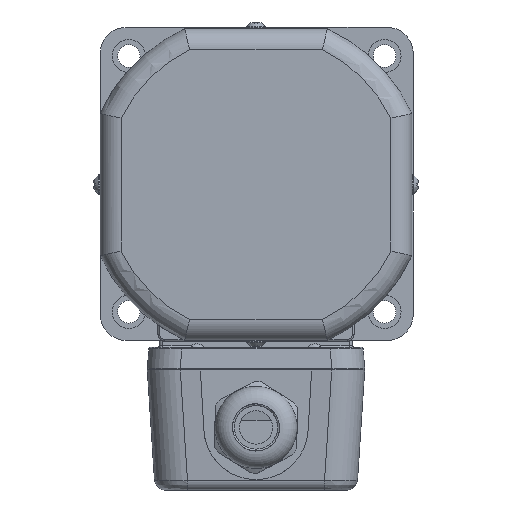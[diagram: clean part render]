
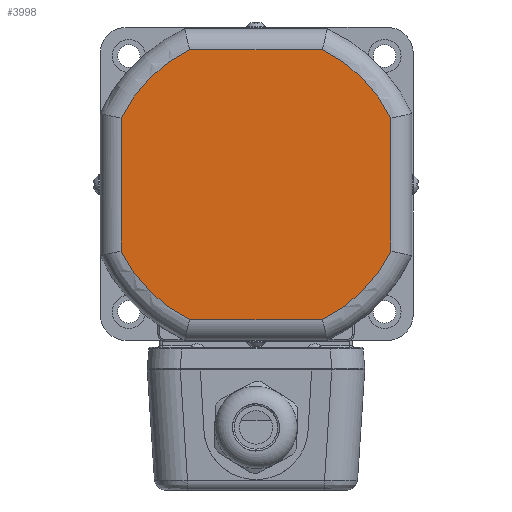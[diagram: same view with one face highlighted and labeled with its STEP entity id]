
A CAD part, left-side view. The second image highlights one B-rep face of the part: STEP entity #3998.
In plain terms, the highlighted planar face has unit normal (-1, 0, 0) as drawn and (0, 0, -1) by its records, which use the part's own axes.
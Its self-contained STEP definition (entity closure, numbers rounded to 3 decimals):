
#3331=CARTESIAN_POINT('',(38.8,-19.108,0.0));
#3332=VERTEX_POINT('',#3331);
#3359=CARTESIAN_POINT('',(19.108,-38.8,0.0));
#3360=VERTEX_POINT('',#3359);
#3378=CARTESIAN_POINT('',(0.0,0.0,0.0));
#3379=DIRECTION('',(0.0,0.0,1.0));
#3380=DIRECTION('',(0.707,-0.707,0.0));
#3381=AXIS2_PLACEMENT_3D('',#3378,#3379,#3380);
#3382=CIRCLE('',#3381,43.25);
#3383=EDGE_CURVE('',#3360,#3332,#3382,.T.);
#3395=CARTESIAN_POINT('',(-19.108,-38.8,0.0));
#3396=VERTEX_POINT('',#3395);
#3414=CARTESIAN_POINT('',(-19.108,-38.8,0.0));
#3415=DIRECTION('',(1.0,0.0,0.0));
#3416=VECTOR('',#3415,38.216);
#3417=LINE('',#3414,#3416);
#3418=EDGE_CURVE('',#3396,#3360,#3417,.T.);
#3437=CARTESIAN_POINT('',(38.8,19.108,0.0));
#3438=VERTEX_POINT('',#3437);
#3463=CARTESIAN_POINT('',(38.8,-19.108,0.0));
#3464=DIRECTION('',(0.0,1.0,0.0));
#3465=VECTOR('',#3464,38.216);
#3466=LINE('',#3463,#3465);
#3467=EDGE_CURVE('',#3332,#3438,#3466,.T.);
#3479=CARTESIAN_POINT('',(-38.8,-19.108,0.0));
#3480=VERTEX_POINT('',#3479);
#3498=CARTESIAN_POINT('',(0.0,0.0,0.0));
#3499=DIRECTION('',(0.0,0.0,1.0));
#3500=DIRECTION('',(-0.707,-0.707,0.0));
#3501=AXIS2_PLACEMENT_3D('',#3498,#3499,#3500);
#3502=CIRCLE('',#3501,43.25);
#3503=EDGE_CURVE('',#3480,#3396,#3502,.T.);
#3523=CARTESIAN_POINT('',(19.108,38.8,0.0));
#3524=VERTEX_POINT('',#3523);
#3550=CARTESIAN_POINT('',(0.0,0.0,0.0));
#3551=DIRECTION('',(0.0,0.0,1.0));
#3552=DIRECTION('',(0.707,0.707,0.0));
#3553=AXIS2_PLACEMENT_3D('',#3550,#3551,#3552);
#3554=CIRCLE('',#3553,43.25);
#3555=EDGE_CURVE('',#3438,#3524,#3554,.T.);
#3567=CARTESIAN_POINT('',(-38.8,19.108,0.0));
#3568=VERTEX_POINT('',#3567);
#3586=CARTESIAN_POINT('',(-38.8,19.108,0.0));
#3587=DIRECTION('',(0.0,-1.0,0.0));
#3588=VECTOR('',#3587,38.216);
#3589=LINE('',#3586,#3588);
#3590=EDGE_CURVE('',#3568,#3480,#3589,.T.);
#3607=CARTESIAN_POINT('',(-19.108,38.8,0.0));
#3608=VERTEX_POINT('',#3607);
#3635=CARTESIAN_POINT('',(19.108,38.8,0.0));
#3636=DIRECTION('',(-1.0,0.0,0.0));
#3637=VECTOR('',#3636,38.216);
#3638=LINE('',#3635,#3637);
#3639=EDGE_CURVE('',#3524,#3608,#3638,.T.);
#3650=CARTESIAN_POINT('',(0.0,0.0,0.0));
#3651=DIRECTION('',(0.0,0.0,1.0));
#3652=DIRECTION('',(-0.707,0.707,0.0));
#3653=AXIS2_PLACEMENT_3D('',#3650,#3651,#3652);
#3654=CIRCLE('',#3653,43.25);
#3655=EDGE_CURVE('',#3608,#3568,#3654,.T.);
#3983=CARTESIAN_POINT('',(0.,0.0,0.0));
#3984=DIRECTION('',(0.0,0.0,1.0));
#3985=DIRECTION('',(1.0,0.0,0.0));
#3986=AXIS2_PLACEMENT_3D('',#3983,#3984,#3985);
#3987=PLANE('',#3986);
#3988=ORIENTED_EDGE('',*,*,#3639,.F.);
#3989=ORIENTED_EDGE('',*,*,#3555,.F.);
#3990=ORIENTED_EDGE('',*,*,#3467,.F.);
#3991=ORIENTED_EDGE('',*,*,#3383,.F.);
#3992=ORIENTED_EDGE('',*,*,#3418,.F.);
#3993=ORIENTED_EDGE('',*,*,#3503,.F.);
#3994=ORIENTED_EDGE('',*,*,#3590,.F.);
#3995=ORIENTED_EDGE('',*,*,#3655,.F.);
#3996=EDGE_LOOP('',(#3988,#3989,#3990,#3991,#3992,#3993,#3994,#3995));
#3997=FACE_OUTER_BOUND('',#3996,.T.);
#3998=ADVANCED_FACE('',(#3997),#3987,.F.);
